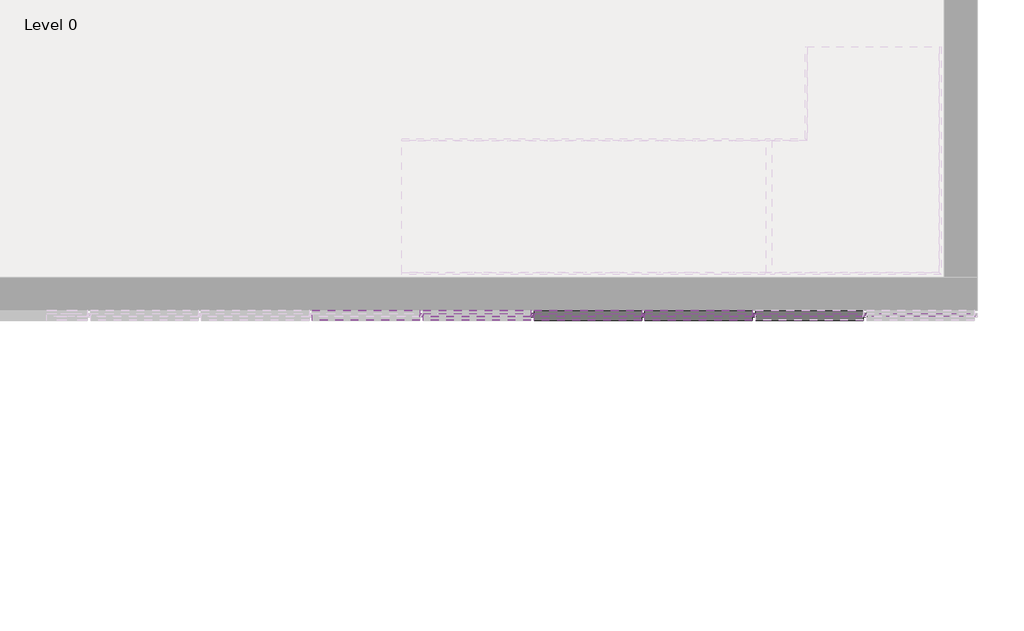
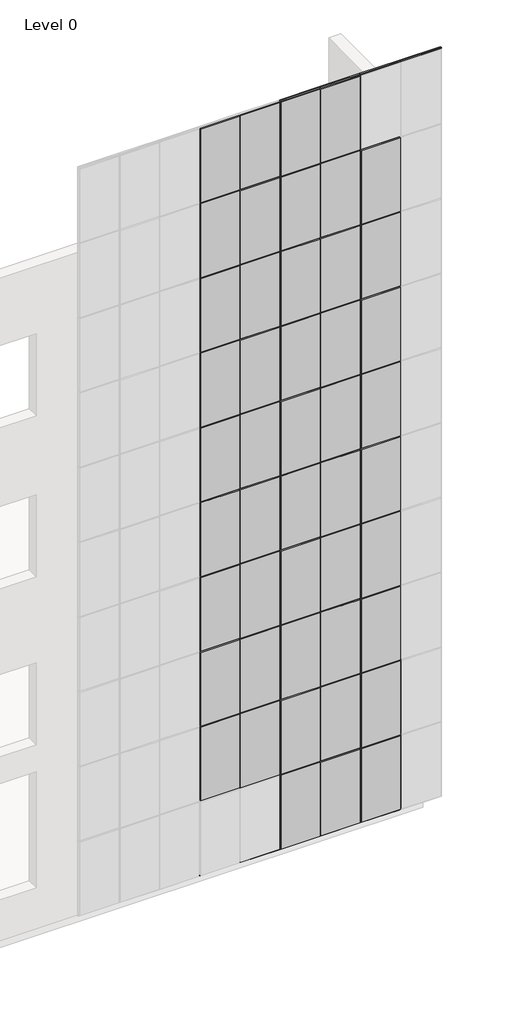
# One storey, part 4 of 10: 86 members, 47 plates.
"""IFC4 building model written with IfcOpenShell, lengths in millimetres."""

from ifc_helpers import new_model, si_unit, origin, place, context, project, spatial, transform, mapped, element, save
from components import rectangular_mullion_25x25mm_9b161682, rectangular_mullion_25x25mm_ababed0b, rectangular_mullion_25x25mm_8d901635, rectangular_mullion_25x25mm_4133c801, rectangular_mullion_25x25mm_ea16d22e, curtain_panels_solid_solid_panel_green_e5ea026e

model = new_model("IFC4")

# Units and contexts
model_context = context("Model", 3, world=origin())
ifc_project = project(units=[si_unit("LENGTHUNIT", "METRE", prefix="MILLI")], contexts=[model_context])

# Site, building, storey
site = spatial("IfcSite", under=ifc_project)
building = spatial("IfcBuilding", under=site)
storey = spatial("IfcBuildingStorey", under=building, Name="Level 0", Elevation=0.0)

# Members
placement = place(None, origin())
rectangular_mullion_25x25mm_shape = rectangular_mullion_25x25mm_9b161682(model_context)
element("IfcMember", 1, ObjectType="Rectangular Mullion : 25x25mm", at=placement, inside=storey, context=model_context, shape_type="MappedRepresentation", body=[
    mapped(rectangular_mullion_25x25mm_shape, transform((37964.4342366, -3560.0053409, 16500.0), x_axis=(0.0, 0.0, 1.0), y_axis=(0.0, 1.0, 0.0), z_axis=(-1.0, 0.0, 0.0))),
])
element("IfcMember", 2, ObjectType="Rectangular Mullion : 25x25mm", at=placement, inside=storey, context=model_context, shape_type="MappedRepresentation", body=[
    mapped(rectangular_mullion_25x25mm_shape, transform((37125.0042367, -3560.0053409, 16500.0), x_axis=(0.0, 0.0, 1.0), y_axis=(0.0, 1.0, 0.0), z_axis=(-1.0, 0.0, 0.0))),
])
element("IfcMember", 3, ObjectType="Rectangular Mullion : 25x25mm", at=placement, inside=storey, context=model_context, shape_type="MappedRepresentation", body=[
    mapped(rectangular_mullion_25x25mm_shape, transform((36285.5742368, -3560.0053409, 16500.0), x_axis=(0.0, 0.0, 1.0), y_axis=(0.0, 1.0, 0.0), z_axis=(-1.0, 0.0, 0.0))),
])
element("IfcMember", 4, ObjectType="Rectangular Mullion : 25x25mm", at=placement, inside=storey, context=model_context, shape_type="MappedRepresentation", body=[
    mapped(rectangular_mullion_25x25mm_shape, transform((38803.8642365, -3560.0053409, 0.0), x_axis=(0.0, 0.0, -1.0), y_axis=(0.0, 1.0, 0.0), z_axis=(1.0, 0.0, 0.0))),
])
element("IfcMember", 5, ObjectType="Rectangular Mullion : 25x25mm", at=placement, inside=storey, context=model_context, shape_type="MappedRepresentation", body=[
    mapped(rectangular_mullion_25x25mm_shape, transform((37964.4342366, -3560.0053409, 0.0), x_axis=(0.0, 0.0, -1.0), y_axis=(0.0, 1.0, 0.0), z_axis=(1.0, 0.0, 0.0))),
])
element("IfcMember", 6, ObjectType="Rectangular Mullion : 25x25mm", at=placement, inside=storey, context=model_context, shape_type="MappedRepresentation", body=[
    mapped(rectangular_mullion_25x25mm_shape, transform((37125.0042367, -3560.0053409, 0.0), x_axis=(0.0, 0.0, -1.0), y_axis=(0.0, 1.0, 0.0), z_axis=(1.0, 0.0, 0.0))),
])
element("IfcMember", 7, ObjectType="Rectangular Mullion : 25x25mm", at=placement, inside=storey, context=model_context, shape_type="MappedRepresentation", body=[
    mapped(rectangular_mullion_25x25mm_shape, transform((36285.5742368, -3560.0053409, 0.0), x_axis=(0.0, 0.0, -1.0), y_axis=(0.0, 1.0, 0.0), z_axis=(1.0, 0.0, 0.0))),
])
element("IfcMember", 8, ObjectType="Rectangular Mullion : 25x25mm", at=placement, inside=storey, context=model_context, shape_type="MappedRepresentation", body=[
    mapped(rectangular_mullion_25x25mm_shape, transform((35446.1442369, -3560.0053409, 0.0), x_axis=(0.0, 0.0, -1.0), y_axis=(0.0, 1.0, 0.0), z_axis=(1.0, 0.0, 0.0))),
])
rectangular_mullion_25x25mm_2_shape = rectangular_mullion_25x25mm_ababed0b(model_context)
element("IfcMember", 9, ObjectType="Rectangular Mullion : 25x25mm", at=placement, inside=storey, context=model_context, shape_type="MappedRepresentation", body=[
    mapped(rectangular_mullion_25x25mm_2_shape, transform((37976.9342366, -3560.0053409, 1660.0), x_axis=(0.0, 0.0, 1.0), y_axis=(0.0, 1.0, 0.0), z_axis=(-1.0, 0.0, 0.0))),
])
element("IfcMember", 10, ObjectType="Rectangular Mullion : 25x25mm", at=placement, inside=storey, context=model_context, shape_type="MappedRepresentation", body=[
    mapped(rectangular_mullion_25x25mm_2_shape, transform((37137.5042367, -3560.0053409, 1660.0), x_axis=(0.0, 0.0, 1.0), y_axis=(0.0, 1.0, 0.0), z_axis=(-1.0, 0.0, 0.0))),
])
element("IfcMember", 11, ObjectType="Rectangular Mullion : 25x25mm", at=placement, inside=storey, context=model_context, shape_type="MappedRepresentation", body=[
    mapped(rectangular_mullion_25x25mm_2_shape, transform((36298.0742368, -3560.0053409, 1660.0), x_axis=(0.0, 0.0, 1.0), y_axis=(0.0, 1.0, 0.0), z_axis=(-1.0, 0.0, 0.0))),
])
element("IfcMember", 12, ObjectType="Rectangular Mullion : 25x25mm", at=placement, inside=storey, context=model_context, shape_type="MappedRepresentation", body=[
    mapped(rectangular_mullion_25x25mm_2_shape, transform((35458.6442369, -3560.0053409, 1660.0), x_axis=(0.0, 0.0, 1.0), y_axis=(0.0, 1.0, 0.0), z_axis=(-1.0, 0.0, 0.0))),
])
element("IfcMember", 13, ObjectType="Rectangular Mullion : 25x25mm", at=placement, inside=storey, context=model_context, shape_type="MappedRepresentation", body=[
    mapped(rectangular_mullion_25x25mm_2_shape, transform((37976.9342366, -3560.0053409, 3307.5), x_axis=(0.0, 0.0, 1.0), y_axis=(0.0, 1.0, 0.0), z_axis=(-1.0, 0.0, 0.0))),
])
element("IfcMember", 14, ObjectType="Rectangular Mullion : 25x25mm", at=placement, inside=storey, context=model_context, shape_type="MappedRepresentation", body=[
    mapped(rectangular_mullion_25x25mm_2_shape, transform((37137.5042367, -3560.0053409, 3307.5), x_axis=(0.0, 0.0, 1.0), y_axis=(0.0, 1.0, 0.0), z_axis=(-1.0, 0.0, 0.0))),
])
element("IfcMember", 15, ObjectType="Rectangular Mullion : 25x25mm", at=placement, inside=storey, context=model_context, shape_type="MappedRepresentation", body=[
    mapped(rectangular_mullion_25x25mm_2_shape, transform((36298.0742368, -3560.0053409, 3307.5), x_axis=(0.0, 0.0, 1.0), y_axis=(0.0, 1.0, 0.0), z_axis=(-1.0, 0.0, 0.0))),
])
element("IfcMember", 16, ObjectType="Rectangular Mullion : 25x25mm", at=placement, inside=storey, context=model_context, shape_type="MappedRepresentation", body=[
    mapped(rectangular_mullion_25x25mm_2_shape, transform((35458.6442369, -3560.0053409, 3307.5), x_axis=(0.0, 0.0, 1.0), y_axis=(0.0, 1.0, 0.0), z_axis=(-1.0, 0.0, 0.0))),
])
element("IfcMember", 17, ObjectType="Rectangular Mullion : 25x25mm", at=placement, inside=storey, context=model_context, shape_type="MappedRepresentation", body=[
    mapped(rectangular_mullion_25x25mm_2_shape, transform((37976.9342366, -3560.0053409, 4955.0), x_axis=(0.0, 0.0, 1.0), y_axis=(0.0, 1.0, 0.0), z_axis=(-1.0, 0.0, 0.0))),
])
element("IfcMember", 18, ObjectType="Rectangular Mullion : 25x25mm", at=placement, inside=storey, context=model_context, shape_type="MappedRepresentation", body=[
    mapped(rectangular_mullion_25x25mm_2_shape, transform((37137.5042367, -3560.0053409, 4955.0), x_axis=(0.0, 0.0, 1.0), y_axis=(0.0, 1.0, 0.0), z_axis=(-1.0, 0.0, 0.0))),
])
element("IfcMember", 19, ObjectType="Rectangular Mullion : 25x25mm", at=placement, inside=storey, context=model_context, shape_type="MappedRepresentation", body=[
    mapped(rectangular_mullion_25x25mm_2_shape, transform((36298.0742368, -3560.0053409, 4955.0), x_axis=(0.0, 0.0, 1.0), y_axis=(0.0, 1.0, 0.0), z_axis=(-1.0, 0.0, 0.0))),
])
element("IfcMember", 20, ObjectType="Rectangular Mullion : 25x25mm", at=placement, inside=storey, context=model_context, shape_type="MappedRepresentation", body=[
    mapped(rectangular_mullion_25x25mm_2_shape, transform((35458.6442369, -3560.0053409, 4955.0), x_axis=(0.0, 0.0, 1.0), y_axis=(0.0, 1.0, 0.0), z_axis=(-1.0, 0.0, 0.0))),
])
element("IfcMember", 21, ObjectType="Rectangular Mullion : 25x25mm", at=placement, inside=storey, context=model_context, shape_type="MappedRepresentation", body=[
    mapped(rectangular_mullion_25x25mm_2_shape, transform((37976.9342366, -3560.0053409, 6602.5), x_axis=(0.0, 0.0, 1.0), y_axis=(0.0, 1.0, 0.0), z_axis=(-1.0, 0.0, 0.0))),
])
element("IfcMember", 22, ObjectType="Rectangular Mullion : 25x25mm", at=placement, inside=storey, context=model_context, shape_type="MappedRepresentation", body=[
    mapped(rectangular_mullion_25x25mm_2_shape, transform((37137.5042367, -3560.0053409, 6602.5), x_axis=(0.0, 0.0, 1.0), y_axis=(0.0, 1.0, 0.0), z_axis=(-1.0, 0.0, 0.0))),
])
element("IfcMember", 23, ObjectType="Rectangular Mullion : 25x25mm", at=placement, inside=storey, context=model_context, shape_type="MappedRepresentation", body=[
    mapped(rectangular_mullion_25x25mm_2_shape, transform((36298.0742368, -3560.0053409, 6602.5), x_axis=(0.0, 0.0, 1.0), y_axis=(0.0, 1.0, 0.0), z_axis=(-1.0, 0.0, 0.0))),
])
element("IfcMember", 24, ObjectType="Rectangular Mullion : 25x25mm", at=placement, inside=storey, context=model_context, shape_type="MappedRepresentation", body=[
    mapped(rectangular_mullion_25x25mm_2_shape, transform((35458.6442369, -3560.0053409, 6602.5), x_axis=(0.0, 0.0, 1.0), y_axis=(0.0, 1.0, 0.0), z_axis=(-1.0, 0.0, 0.0))),
])
element("IfcMember", 25, ObjectType="Rectangular Mullion : 25x25mm", at=placement, inside=storey, context=model_context, shape_type="MappedRepresentation", body=[
    mapped(rectangular_mullion_25x25mm_2_shape, transform((37976.9342366, -3560.0053409, 8250.0), x_axis=(0.0, 0.0, 1.0), y_axis=(0.0, 1.0, 0.0), z_axis=(-1.0, 0.0, 0.0))),
])
element("IfcMember", 26, ObjectType="Rectangular Mullion : 25x25mm", at=placement, inside=storey, context=model_context, shape_type="MappedRepresentation", body=[
    mapped(rectangular_mullion_25x25mm_2_shape, transform((37137.5042367, -3560.0053409, 8250.0), x_axis=(0.0, 0.0, 1.0), y_axis=(0.0, 1.0, 0.0), z_axis=(-1.0, 0.0, 0.0))),
])
element("IfcMember", 27, ObjectType="Rectangular Mullion : 25x25mm", at=placement, inside=storey, context=model_context, shape_type="MappedRepresentation", body=[
    mapped(rectangular_mullion_25x25mm_2_shape, transform((36298.0742368, -3560.0053409, 8250.0), x_axis=(0.0, 0.0, 1.0), y_axis=(0.0, 1.0, 0.0), z_axis=(-1.0, 0.0, 0.0))),
])
element("IfcMember", 28, ObjectType="Rectangular Mullion : 25x25mm", at=placement, inside=storey, context=model_context, shape_type="MappedRepresentation", body=[
    mapped(rectangular_mullion_25x25mm_2_shape, transform((35458.6442369, -3560.0053409, 8250.0), x_axis=(0.0, 0.0, 1.0), y_axis=(0.0, 1.0, 0.0), z_axis=(-1.0, 0.0, 0.0))),
])
element("IfcMember", 29, ObjectType="Rectangular Mullion : 25x25mm", at=placement, inside=storey, context=model_context, shape_type="MappedRepresentation", body=[
    mapped(rectangular_mullion_25x25mm_2_shape, transform((37976.9342366, -3560.0053409, 9897.5), x_axis=(0.0, 0.0, 1.0), y_axis=(0.0, 1.0, 0.0), z_axis=(-1.0, 0.0, 0.0))),
])
element("IfcMember", 30, ObjectType="Rectangular Mullion : 25x25mm", at=placement, inside=storey, context=model_context, shape_type="MappedRepresentation", body=[
    mapped(rectangular_mullion_25x25mm_2_shape, transform((37137.5042367, -3560.0053409, 9897.5), x_axis=(0.0, 0.0, 1.0), y_axis=(0.0, 1.0, 0.0), z_axis=(-1.0, 0.0, 0.0))),
])
element("IfcMember", 31, ObjectType="Rectangular Mullion : 25x25mm", at=placement, inside=storey, context=model_context, shape_type="MappedRepresentation", body=[
    mapped(rectangular_mullion_25x25mm_2_shape, transform((36298.0742368, -3560.0053409, 9897.5), x_axis=(0.0, 0.0, 1.0), y_axis=(0.0, 1.0, 0.0), z_axis=(-1.0, 0.0, 0.0))),
])
element("IfcMember", 32, ObjectType="Rectangular Mullion : 25x25mm", at=placement, inside=storey, context=model_context, shape_type="MappedRepresentation", body=[
    mapped(rectangular_mullion_25x25mm_2_shape, transform((35458.6442369, -3560.0053409, 9897.5), x_axis=(0.0, 0.0, 1.0), y_axis=(0.0, 1.0, 0.0), z_axis=(-1.0, 0.0, 0.0))),
])
element("IfcMember", 33, ObjectType="Rectangular Mullion : 25x25mm", at=placement, inside=storey, context=model_context, shape_type="MappedRepresentation", body=[
    mapped(rectangular_mullion_25x25mm_2_shape, transform((37976.9342366, -3560.0053409, 11545.0), x_axis=(0.0, 0.0, 1.0), y_axis=(0.0, 1.0, 0.0), z_axis=(-1.0, 0.0, 0.0))),
])
element("IfcMember", 34, ObjectType="Rectangular Mullion : 25x25mm", at=placement, inside=storey, context=model_context, shape_type="MappedRepresentation", body=[
    mapped(rectangular_mullion_25x25mm_2_shape, transform((37137.5042367, -3560.0053409, 11545.0), x_axis=(0.0, 0.0, 1.0), y_axis=(0.0, 1.0, 0.0), z_axis=(-1.0, 0.0, 0.0))),
])
element("IfcMember", 35, ObjectType="Rectangular Mullion : 25x25mm", at=placement, inside=storey, context=model_context, shape_type="MappedRepresentation", body=[
    mapped(rectangular_mullion_25x25mm_2_shape, transform((36298.0742368, -3560.0053409, 11545.0), x_axis=(0.0, 0.0, 1.0), y_axis=(0.0, 1.0, 0.0), z_axis=(-1.0, 0.0, 0.0))),
])
element("IfcMember", 36, ObjectType="Rectangular Mullion : 25x25mm", at=placement, inside=storey, context=model_context, shape_type="MappedRepresentation", body=[
    mapped(rectangular_mullion_25x25mm_2_shape, transform((35458.6442369, -3560.0053409, 11545.0), x_axis=(0.0, 0.0, 1.0), y_axis=(0.0, 1.0, 0.0), z_axis=(-1.0, 0.0, 0.0))),
])
element("IfcMember", 37, ObjectType="Rectangular Mullion : 25x25mm", at=placement, inside=storey, context=model_context, shape_type="MappedRepresentation", body=[
    mapped(rectangular_mullion_25x25mm_2_shape, transform((37976.9342366, -3560.0053409, 13192.5), x_axis=(0.0, 0.0, 1.0), y_axis=(0.0, 1.0, 0.0), z_axis=(-1.0, 0.0, 0.0))),
])
element("IfcMember", 38, ObjectType="Rectangular Mullion : 25x25mm", at=placement, inside=storey, context=model_context, shape_type="MappedRepresentation", body=[
    mapped(rectangular_mullion_25x25mm_2_shape, transform((37137.5042367, -3560.0053409, 13192.5), x_axis=(0.0, 0.0, 1.0), y_axis=(0.0, 1.0, 0.0), z_axis=(-1.0, 0.0, 0.0))),
])
element("IfcMember", 39, ObjectType="Rectangular Mullion : 25x25mm", at=placement, inside=storey, context=model_context, shape_type="MappedRepresentation", body=[
    mapped(rectangular_mullion_25x25mm_2_shape, transform((36298.0742368, -3560.0053409, 13192.5), x_axis=(0.0, 0.0, 1.0), y_axis=(0.0, 1.0, 0.0), z_axis=(-1.0, 0.0, 0.0))),
])
element("IfcMember", 40, ObjectType="Rectangular Mullion : 25x25mm", at=placement, inside=storey, context=model_context, shape_type="MappedRepresentation", body=[
    mapped(rectangular_mullion_25x25mm_2_shape, transform((35458.6442369, -3560.0053409, 13192.5), x_axis=(0.0, 0.0, 1.0), y_axis=(0.0, 1.0, 0.0), z_axis=(-1.0, 0.0, 0.0))),
])
element("IfcMember", 41, ObjectType="Rectangular Mullion : 25x25mm", at=placement, inside=storey, context=model_context, shape_type="MappedRepresentation", body=[
    mapped(rectangular_mullion_25x25mm_2_shape, transform((37976.9342366, -3560.0053409, 14840.0), x_axis=(0.0, 0.0, 1.0), y_axis=(0.0, 1.0, 0.0), z_axis=(-1.0, 0.0, 0.0))),
])
element("IfcMember", 42, ObjectType="Rectangular Mullion : 25x25mm", at=placement, inside=storey, context=model_context, shape_type="MappedRepresentation", body=[
    mapped(rectangular_mullion_25x25mm_2_shape, transform((37137.5042367, -3560.0053409, 14840.0), x_axis=(0.0, 0.0, 1.0), y_axis=(0.0, 1.0, 0.0), z_axis=(-1.0, 0.0, 0.0))),
])
element("IfcMember", 43, ObjectType="Rectangular Mullion : 25x25mm", at=placement, inside=storey, context=model_context, shape_type="MappedRepresentation", body=[
    mapped(rectangular_mullion_25x25mm_2_shape, transform((36298.0742368, -3560.0053409, 14840.0), x_axis=(0.0, 0.0, 1.0), y_axis=(0.0, 1.0, 0.0), z_axis=(-1.0, 0.0, 0.0))),
])
element("IfcMember", 44, ObjectType="Rectangular Mullion : 25x25mm", at=placement, inside=storey, context=model_context, shape_type="MappedRepresentation", body=[
    mapped(rectangular_mullion_25x25mm_2_shape, transform((35458.6442369, -3560.0053409, 14840.0), x_axis=(0.0, 0.0, 1.0), y_axis=(0.0, 1.0, 0.0), z_axis=(-1.0, 0.0, 0.0))),
])
rectangular_mullion_25x25mm_3_shape = rectangular_mullion_25x25mm_8d901635(model_context)
element("IfcMember", 45, ObjectType="Rectangular Mullion : 25x25mm", at=placement, inside=storey, context=model_context, shape_type="MappedRepresentation", body=[
    mapped(rectangular_mullion_25x25mm_3_shape, transform((38803.8642365, -3560.0053409, 25.0), x_axis=(-1.0, 0.0, 0.0), y_axis=(0.0, 1.0, 0.0), z_axis=(0.0, 0.0, -1.0))),
])
element("IfcMember", 46, ObjectType="Rectangular Mullion : 25x25mm", at=placement, inside=storey, context=model_context, shape_type="MappedRepresentation", body=[
    mapped(rectangular_mullion_25x25mm_3_shape, transform((37964.4342366, -3560.0053409, 25.0), x_axis=(-1.0, 0.0, 0.0), y_axis=(0.0, 1.0, 0.0), z_axis=(0.0, 0.0, -1.0))),
])
element("IfcMember", 47, ObjectType="Rectangular Mullion : 25x25mm", at=placement, inside=storey, context=model_context, shape_type="MappedRepresentation", body=[
    mapped(rectangular_mullion_25x25mm_3_shape, transform((37125.0042367, -3560.0053409, 25.0), x_axis=(-1.0, 0.0, 0.0), y_axis=(0.0, 1.0, 0.0), z_axis=(0.0, 0.0, -1.0))),
])
element("IfcMember", 48, ObjectType="Rectangular Mullion : 25x25mm", at=placement, inside=storey, context=model_context, shape_type="MappedRepresentation", body=[
    mapped(rectangular_mullion_25x25mm_3_shape, transform((36285.5742368, -3560.0053409, 25.0), x_axis=(-1.0, 0.0, 0.0), y_axis=(0.0, 1.0, 0.0), z_axis=(0.0, 0.0, -1.0))),
])
rectangular_mullion_25x25mm_4_shape = rectangular_mullion_25x25mm_4133c801(model_context)
element("IfcMember", 49, ObjectType="Rectangular Mullion : 25x25mm", at=placement, inside=storey, context=model_context, shape_type="MappedRepresentation", body=[
    mapped(rectangular_mullion_25x25mm_4_shape, transform((38803.8642365, -3560.0053409, 1660.0), x_axis=(-1.0, 0.0, 0.0), y_axis=(0.0, 1.0, 0.0), z_axis=(0.0, 0.0, -1.0))),
])
element("IfcMember", 50, ObjectType="Rectangular Mullion : 25x25mm", at=placement, inside=storey, context=model_context, shape_type="MappedRepresentation", body=[
    mapped(rectangular_mullion_25x25mm_4_shape, transform((37964.4342366, -3560.0053409, 1660.0), x_axis=(-1.0, 0.0, 0.0), y_axis=(0.0, 1.0, 0.0), z_axis=(0.0, 0.0, -1.0))),
])
element("IfcMember", 51, ObjectType="Rectangular Mullion : 25x25mm", at=placement, inside=storey, context=model_context, shape_type="MappedRepresentation", body=[
    mapped(rectangular_mullion_25x25mm_4_shape, transform((37964.4342366, -3560.0053409, 3307.5), x_axis=(-1.0, 0.0, 0.0), y_axis=(0.0, 1.0, 0.0), z_axis=(0.0, 0.0, -1.0))),
])
element("IfcMember", 52, ObjectType="Rectangular Mullion : 25x25mm", at=placement, inside=storey, context=model_context, shape_type="MappedRepresentation", body=[
    mapped(rectangular_mullion_25x25mm_4_shape, transform((37964.4342366, -3560.0053409, 4955.0), x_axis=(-1.0, 0.0, 0.0), y_axis=(0.0, 1.0, 0.0), z_axis=(0.0, 0.0, -1.0))),
])
element("IfcMember", 53, ObjectType="Rectangular Mullion : 25x25mm", at=placement, inside=storey, context=model_context, shape_type="MappedRepresentation", body=[
    mapped(rectangular_mullion_25x25mm_4_shape, transform((37964.4342366, -3560.0053409, 6602.5), x_axis=(-1.0, 0.0, 0.0), y_axis=(0.0, 1.0, 0.0), z_axis=(0.0, 0.0, -1.0))),
])
element("IfcMember", 54, ObjectType="Rectangular Mullion : 25x25mm", at=placement, inside=storey, context=model_context, shape_type="MappedRepresentation", body=[
    mapped(rectangular_mullion_25x25mm_4_shape, transform((37964.4342366, -3560.0053409, 8250.0), x_axis=(-1.0, 0.0, 0.0), y_axis=(0.0, 1.0, 0.0), z_axis=(0.0, 0.0, -1.0))),
])
element("IfcMember", 55, ObjectType="Rectangular Mullion : 25x25mm", at=placement, inside=storey, context=model_context, shape_type="MappedRepresentation", body=[
    mapped(rectangular_mullion_25x25mm_4_shape, transform((37964.4342366, -3560.0053409, 9897.5), x_axis=(-1.0, 0.0, 0.0), y_axis=(0.0, 1.0, 0.0), z_axis=(0.0, 0.0, -1.0))),
])
element("IfcMember", 56, ObjectType="Rectangular Mullion : 25x25mm", at=placement, inside=storey, context=model_context, shape_type="MappedRepresentation", body=[
    mapped(rectangular_mullion_25x25mm_4_shape, transform((37964.4342366, -3560.0053409, 11545.0), x_axis=(-1.0, 0.0, 0.0), y_axis=(0.0, 1.0, 0.0), z_axis=(0.0, 0.0, -1.0))),
])
element("IfcMember", 57, ObjectType="Rectangular Mullion : 25x25mm", at=placement, inside=storey, context=model_context, shape_type="MappedRepresentation", body=[
    mapped(rectangular_mullion_25x25mm_4_shape, transform((37964.4342366, -3560.0053409, 13192.5), x_axis=(-1.0, 0.0, 0.0), y_axis=(0.0, 1.0, 0.0), z_axis=(0.0, 0.0, -1.0))),
])
element("IfcMember", 58, ObjectType="Rectangular Mullion : 25x25mm", at=placement, inside=storey, context=model_context, shape_type="MappedRepresentation", body=[
    mapped(rectangular_mullion_25x25mm_4_shape, transform((37125.0042367, -3560.0053409, 1660.0), x_axis=(-1.0, 0.0, 0.0), y_axis=(0.0, 1.0, 0.0), z_axis=(0.0, 0.0, -1.0))),
])
element("IfcMember", 59, ObjectType="Rectangular Mullion : 25x25mm", at=placement, inside=storey, context=model_context, shape_type="MappedRepresentation", body=[
    mapped(rectangular_mullion_25x25mm_4_shape, transform((37125.0042367, -3560.0053409, 3307.5), x_axis=(-1.0, 0.0, 0.0), y_axis=(0.0, 1.0, 0.0), z_axis=(0.0, 0.0, -1.0))),
])
element("IfcMember", 60, ObjectType="Rectangular Mullion : 25x25mm", at=placement, inside=storey, context=model_context, shape_type="MappedRepresentation", body=[
    mapped(rectangular_mullion_25x25mm_4_shape, transform((37125.0042367, -3560.0053409, 4955.0), x_axis=(-1.0, 0.0, 0.0), y_axis=(0.0, 1.0, 0.0), z_axis=(0.0, 0.0, -1.0))),
])
element("IfcMember", 61, ObjectType="Rectangular Mullion : 25x25mm", at=placement, inside=storey, context=model_context, shape_type="MappedRepresentation", body=[
    mapped(rectangular_mullion_25x25mm_4_shape, transform((37125.0042367, -3560.0053409, 6602.5), x_axis=(-1.0, 0.0, 0.0), y_axis=(0.0, 1.0, 0.0), z_axis=(0.0, 0.0, -1.0))),
])
element("IfcMember", 62, ObjectType="Rectangular Mullion : 25x25mm", at=placement, inside=storey, context=model_context, shape_type="MappedRepresentation", body=[
    mapped(rectangular_mullion_25x25mm_4_shape, transform((37125.0042367, -3560.0053409, 8250.0), x_axis=(-1.0, 0.0, 0.0), y_axis=(0.0, 1.0, 0.0), z_axis=(0.0, 0.0, -1.0))),
])
element("IfcMember", 63, ObjectType="Rectangular Mullion : 25x25mm", at=placement, inside=storey, context=model_context, shape_type="MappedRepresentation", body=[
    mapped(rectangular_mullion_25x25mm_4_shape, transform((37125.0042367, -3560.0053409, 9897.5), x_axis=(-1.0, 0.0, 0.0), y_axis=(0.0, 1.0, 0.0), z_axis=(0.0, 0.0, -1.0))),
])
element("IfcMember", 64, ObjectType="Rectangular Mullion : 25x25mm", at=placement, inside=storey, context=model_context, shape_type="MappedRepresentation", body=[
    mapped(rectangular_mullion_25x25mm_4_shape, transform((37125.0042367, -3560.0053409, 11545.0), x_axis=(-1.0, 0.0, 0.0), y_axis=(0.0, 1.0, 0.0), z_axis=(0.0, 0.0, -1.0))),
])
element("IfcMember", 65, ObjectType="Rectangular Mullion : 25x25mm", at=placement, inside=storey, context=model_context, shape_type="MappedRepresentation", body=[
    mapped(rectangular_mullion_25x25mm_4_shape, transform((37125.0042367, -3560.0053409, 13192.5), x_axis=(-1.0, 0.0, 0.0), y_axis=(0.0, 1.0, 0.0), z_axis=(0.0, 0.0, -1.0))),
])
element("IfcMember", 66, ObjectType="Rectangular Mullion : 25x25mm", at=placement, inside=storey, context=model_context, shape_type="MappedRepresentation", body=[
    mapped(rectangular_mullion_25x25mm_4_shape, transform((36285.5742368, -3560.0053409, 1660.0), x_axis=(-1.0, 0.0, 0.0), y_axis=(0.0, 1.0, 0.0), z_axis=(0.0, 0.0, -1.0))),
])
element("IfcMember", 67, ObjectType="Rectangular Mullion : 25x25mm", at=placement, inside=storey, context=model_context, shape_type="MappedRepresentation", body=[
    mapped(rectangular_mullion_25x25mm_4_shape, transform((36285.5742368, -3560.0053409, 3307.5), x_axis=(-1.0, 0.0, 0.0), y_axis=(0.0, 1.0, 0.0), z_axis=(0.0, 0.0, -1.0))),
])
element("IfcMember", 68, ObjectType="Rectangular Mullion : 25x25mm", at=placement, inside=storey, context=model_context, shape_type="MappedRepresentation", body=[
    mapped(rectangular_mullion_25x25mm_4_shape, transform((36285.5742368, -3560.0053409, 4955.0), x_axis=(-1.0, 0.0, 0.0), y_axis=(0.0, 1.0, 0.0), z_axis=(0.0, 0.0, -1.0))),
])
element("IfcMember", 69, ObjectType="Rectangular Mullion : 25x25mm", at=placement, inside=storey, context=model_context, shape_type="MappedRepresentation", body=[
    mapped(rectangular_mullion_25x25mm_4_shape, transform((36285.5742368, -3560.0053409, 6602.5), x_axis=(-1.0, 0.0, 0.0), y_axis=(0.0, 1.0, 0.0), z_axis=(0.0, 0.0, -1.0))),
])
element("IfcMember", 70, ObjectType="Rectangular Mullion : 25x25mm", at=placement, inside=storey, context=model_context, shape_type="MappedRepresentation", body=[
    mapped(rectangular_mullion_25x25mm_4_shape, transform((36285.5742368, -3560.0053409, 8250.0), x_axis=(-1.0, 0.0, 0.0), y_axis=(0.0, 1.0, 0.0), z_axis=(0.0, 0.0, -1.0))),
])
element("IfcMember", 71, ObjectType="Rectangular Mullion : 25x25mm", at=placement, inside=storey, context=model_context, shape_type="MappedRepresentation", body=[
    mapped(rectangular_mullion_25x25mm_4_shape, transform((36285.5742368, -3560.0053409, 9897.5), x_axis=(-1.0, 0.0, 0.0), y_axis=(0.0, 1.0, 0.0), z_axis=(0.0, 0.0, -1.0))),
])
element("IfcMember", 72, ObjectType="Rectangular Mullion : 25x25mm", at=placement, inside=storey, context=model_context, shape_type="MappedRepresentation", body=[
    mapped(rectangular_mullion_25x25mm_4_shape, transform((36285.5742368, -3560.0053409, 11545.0), x_axis=(-1.0, 0.0, 0.0), y_axis=(0.0, 1.0, 0.0), z_axis=(0.0, 0.0, -1.0))),
])
element("IfcMember", 73, ObjectType="Rectangular Mullion : 25x25mm", at=placement, inside=storey, context=model_context, shape_type="MappedRepresentation", body=[
    mapped(rectangular_mullion_25x25mm_4_shape, transform((36285.5742368, -3560.0053409, 13192.5), x_axis=(-1.0, 0.0, 0.0), y_axis=(0.0, 1.0, 0.0), z_axis=(0.0, 0.0, -1.0))),
])
element("IfcMember", 74, ObjectType="Rectangular Mullion : 25x25mm", at=placement, inside=storey, context=model_context, shape_type="MappedRepresentation", body=[
    mapped(rectangular_mullion_25x25mm_4_shape, transform((35446.1442369, -3560.0053409, 1660.0), x_axis=(-1.0, 0.0, 0.0), y_axis=(0.0, 1.0, 0.0), z_axis=(0.0, 0.0, -1.0))),
])
element("IfcMember", 75, ObjectType="Rectangular Mullion : 25x25mm", at=placement, inside=storey, context=model_context, shape_type="MappedRepresentation", body=[
    mapped(rectangular_mullion_25x25mm_4_shape, transform((35446.1442369, -3560.0053409, 3307.5), x_axis=(-1.0, 0.0, 0.0), y_axis=(0.0, 1.0, 0.0), z_axis=(0.0, 0.0, -1.0))),
])
element("IfcMember", 76, ObjectType="Rectangular Mullion : 25x25mm", at=placement, inside=storey, context=model_context, shape_type="MappedRepresentation", body=[
    mapped(rectangular_mullion_25x25mm_4_shape, transform((35446.1442369, -3560.0053409, 4955.0), x_axis=(-1.0, 0.0, 0.0), y_axis=(0.0, 1.0, 0.0), z_axis=(0.0, 0.0, -1.0))),
])
element("IfcMember", 77, ObjectType="Rectangular Mullion : 25x25mm", at=placement, inside=storey, context=model_context, shape_type="MappedRepresentation", body=[
    mapped(rectangular_mullion_25x25mm_4_shape, transform((35446.1442369, -3560.0053409, 6602.5), x_axis=(-1.0, 0.0, 0.0), y_axis=(0.0, 1.0, 0.0), z_axis=(0.0, 0.0, -1.0))),
])
element("IfcMember", 78, ObjectType="Rectangular Mullion : 25x25mm", at=placement, inside=storey, context=model_context, shape_type="MappedRepresentation", body=[
    mapped(rectangular_mullion_25x25mm_4_shape, transform((35446.1442369, -3560.0053409, 8250.0), x_axis=(-1.0, 0.0, 0.0), y_axis=(0.0, 1.0, 0.0), z_axis=(0.0, 0.0, -1.0))),
])
element("IfcMember", 79, ObjectType="Rectangular Mullion : 25x25mm", at=placement, inside=storey, context=model_context, shape_type="MappedRepresentation", body=[
    mapped(rectangular_mullion_25x25mm_4_shape, transform((35446.1442369, -3560.0053409, 9897.5), x_axis=(-1.0, 0.0, 0.0), y_axis=(0.0, 1.0, 0.0), z_axis=(0.0, 0.0, -1.0))),
])
element("IfcMember", 80, ObjectType="Rectangular Mullion : 25x25mm", at=placement, inside=storey, context=model_context, shape_type="MappedRepresentation", body=[
    mapped(rectangular_mullion_25x25mm_4_shape, transform((35446.1442369, -3560.0053409, 11545.0), x_axis=(-1.0, 0.0, 0.0), y_axis=(0.0, 1.0, 0.0), z_axis=(0.0, 0.0, -1.0))),
])
element("IfcMember", 81, ObjectType="Rectangular Mullion : 25x25mm", at=placement, inside=storey, context=model_context, shape_type="MappedRepresentation", body=[
    mapped(rectangular_mullion_25x25mm_4_shape, transform((35446.1442369, -3560.0053409, 13192.5), x_axis=(-1.0, 0.0, 0.0), y_axis=(0.0, 1.0, 0.0), z_axis=(0.0, 0.0, -1.0))),
])
rectangular_mullion_25x25mm_5_shape = rectangular_mullion_25x25mm_ea16d22e(model_context)
element("IfcMember", 82, ObjectType="Rectangular Mullion : 25x25mm", at=placement, inside=storey, context=model_context, shape_type="MappedRepresentation", body=[
    mapped(rectangular_mullion_25x25mm_5_shape, transform((38803.8642365, -3560.0053409, 16500.0), x_axis=(0.0, 0.0, 1.0), y_axis=(0.0, 1.0, 0.0), z_axis=(-1.0, 0.0, 0.0))),
])
element("IfcMember", 83, ObjectType="Rectangular Mullion : 25x25mm", at=placement, inside=storey, context=model_context, shape_type="MappedRepresentation", body=[
    mapped(rectangular_mullion_25x25mm_3_shape, transform((37964.4342366, -3560.0053409, 14840.0), x_axis=(-1.0, 0.0, 0.0), y_axis=(0.0, 1.0, 0.0), z_axis=(0.0, 0.0, -1.0))),
])
element("IfcMember", 84, ObjectType="Rectangular Mullion : 25x25mm", at=placement, inside=storey, context=model_context, shape_type="MappedRepresentation", body=[
    mapped(rectangular_mullion_25x25mm_3_shape, transform((37125.0042367, -3560.0053409, 14840.0), x_axis=(-1.0, 0.0, 0.0), y_axis=(0.0, 1.0, 0.0), z_axis=(0.0, 0.0, -1.0))),
])
element("IfcMember", 85, ObjectType="Rectangular Mullion : 25x25mm", at=placement, inside=storey, context=model_context, shape_type="MappedRepresentation", body=[
    mapped(rectangular_mullion_25x25mm_3_shape, transform((36285.5742368, -3560.0053409, 14840.0), x_axis=(-1.0, 0.0, 0.0), y_axis=(0.0, 1.0, 0.0), z_axis=(0.0, 0.0, -1.0))),
])
element("IfcMember", 86, ObjectType="Rectangular Mullion : 25x25mm", at=placement, inside=storey, context=model_context, shape_type="MappedRepresentation", body=[
    mapped(rectangular_mullion_25x25mm_3_shape, transform((35446.1442369, -3560.0053409, 14840.0), x_axis=(-1.0, 0.0, 0.0), y_axis=(0.0, 1.0, 0.0), z_axis=(0.0, 0.0, -1.0))),
])

# Plates
curtain_panels_solid_solid_panel_green_shape = curtain_panels_solid_solid_panel_green_e5ea026e(model_context)
element("IfcPlate", 87, ObjectType="Curtain_Panels_Solid : Solid_Panel_Green", at=placement, inside=storey, context=model_context, shape_type="MappedRepresentation", body=[
    mapped(curtain_panels_solid_solid_panel_green_shape, transform((38384.1492365, -3560.0053409, 25.0), x_axis=(-1.0, 0.0, 0.0), y_axis=(0.0, -1.0, 0.0), z_axis=(0.0, 0.0, 1.0))),
])
element("IfcPlate", 88, ObjectType="Curtain_Panels_Solid : Solid_Panel_Green", at=placement, inside=storey, context=model_context, shape_type="MappedRepresentation", body=[
    mapped(curtain_panels_solid_solid_panel_green_shape, transform((37544.7192366, -3560.0053409, 25.0), x_axis=(-1.0, 0.0, 0.0), y_axis=(0.0, -1.0, 0.0), z_axis=(0.0, 0.0, 1.0))),
])
element("IfcPlate", 89, ObjectType="Curtain_Panels_Solid : Solid_Panel_Green", at=placement, inside=storey, context=model_context, shape_type="MappedRepresentation", body=[
    mapped(curtain_panels_solid_solid_panel_green_shape, transform((36705.2892367, -3560.0053409, 25.0), x_axis=(-1.0, 0.0, 0.0), y_axis=(0.0, -1.0, 0.0), z_axis=(0.0, 0.0, 1.0))),
])
element("IfcPlate", 90, ObjectType="Curtain_Panels_Solid : Solid_Panel_Green", at=placement, inside=storey, context=model_context, shape_type="MappedRepresentation", body=[
    mapped(curtain_panels_solid_solid_panel_green_shape, transform((38384.1492365, -3560.0053409, 1672.5), x_axis=(-1.0, 0.0, 0.0), y_axis=(0.0, -1.0, 0.0), z_axis=(0.0, 0.0, 1.0))),
])
element("IfcPlate", 91, ObjectType="Curtain_Panels_Solid : Solid_Panel_Green", at=placement, inside=storey, context=model_context, shape_type="MappedRepresentation", body=[
    mapped(curtain_panels_solid_solid_panel_green_shape, transform((37544.7192366, -3560.0053409, 1672.5), x_axis=(-1.0, 0.0, 0.0), y_axis=(0.0, -1.0, 0.0), z_axis=(0.0, 0.0, 1.0))),
])
element("IfcPlate", 92, ObjectType="Curtain_Panels_Solid : Solid_Panel_Green", at=placement, inside=storey, context=model_context, shape_type="MappedRepresentation", body=[
    mapped(curtain_panels_solid_solid_panel_green_shape, transform((36705.2892367, -3560.0053409, 1672.5), x_axis=(-1.0, 0.0, 0.0), y_axis=(0.0, -1.0, 0.0), z_axis=(0.0, 0.0, 1.0))),
])
element("IfcPlate", 93, ObjectType="Curtain_Panels_Solid : Solid_Panel_Green", at=placement, inside=storey, context=model_context, shape_type="MappedRepresentation", body=[
    mapped(curtain_panels_solid_solid_panel_green_shape, transform((35865.8592368, -3560.0053409, 1672.5), x_axis=(-1.0, 0.0, 0.0), y_axis=(0.0, -1.0, 0.0), z_axis=(0.0, 0.0, 1.0))),
])
element("IfcPlate", 94, ObjectType="Curtain_Panels_Solid : Solid_Panel_Green", at=placement, inside=storey, context=model_context, shape_type="MappedRepresentation", body=[
    mapped(curtain_panels_solid_solid_panel_green_shape, transform((35026.4292369, -3560.0053409, 1672.5), x_axis=(-1.0, 0.0, 0.0), y_axis=(0.0, -1.0, 0.0), z_axis=(0.0, 0.0, 1.0))),
])
element("IfcPlate", 95, ObjectType="Curtain_Panels_Solid : Solid_Panel_Green", at=placement, inside=storey, context=model_context, shape_type="MappedRepresentation", body=[
    mapped(curtain_panels_solid_solid_panel_green_shape, transform((38384.1492365, -3560.0053409, 3320.0), x_axis=(-1.0, 0.0, 0.0), y_axis=(0.0, -1.0, 0.0), z_axis=(0.0, 0.0, 1.0))),
])
element("IfcPlate", 96, ObjectType="Curtain_Panels_Solid : Solid_Panel_Green", at=placement, inside=storey, context=model_context, shape_type="MappedRepresentation", body=[
    mapped(curtain_panels_solid_solid_panel_green_shape, transform((37544.7192366, -3560.0053409, 3320.0), x_axis=(-1.0, 0.0, 0.0), y_axis=(0.0, -1.0, 0.0), z_axis=(0.0, 0.0, 1.0))),
])
element("IfcPlate", 97, ObjectType="Curtain_Panels_Solid : Solid_Panel_Green", at=placement, inside=storey, context=model_context, shape_type="MappedRepresentation", body=[
    mapped(curtain_panels_solid_solid_panel_green_shape, transform((36705.2892367, -3560.0053409, 3320.0), x_axis=(-1.0, 0.0, 0.0), y_axis=(0.0, -1.0, 0.0), z_axis=(0.0, 0.0, 1.0))),
])
element("IfcPlate", 98, ObjectType="Curtain_Panels_Solid : Solid_Panel_Green", at=placement, inside=storey, context=model_context, shape_type="MappedRepresentation", body=[
    mapped(curtain_panels_solid_solid_panel_green_shape, transform((35865.8592368, -3560.0053409, 3320.0), x_axis=(-1.0, 0.0, 0.0), y_axis=(0.0, -1.0, 0.0), z_axis=(0.0, 0.0, 1.0))),
])
element("IfcPlate", 99, ObjectType="Curtain_Panels_Solid : Solid_Panel_Green", at=placement, inside=storey, context=model_context, shape_type="MappedRepresentation", body=[
    mapped(curtain_panels_solid_solid_panel_green_shape, transform((35026.4292369, -3560.0053409, 3320.0), x_axis=(-1.0, 0.0, 0.0), y_axis=(0.0, -1.0, 0.0), z_axis=(0.0, 0.0, 1.0))),
])
element("IfcPlate", 100, ObjectType="Curtain_Panels_Solid : Solid_Panel_Green", at=placement, inside=storey, context=model_context, shape_type="MappedRepresentation", body=[
    mapped(curtain_panels_solid_solid_panel_green_shape, transform((38384.1492365, -3560.0053409, 4967.5), x_axis=(-1.0, 0.0, 0.0), y_axis=(0.0, -1.0, 0.0), z_axis=(0.0, 0.0, 1.0))),
])
element("IfcPlate", 101, ObjectType="Curtain_Panels_Solid : Solid_Panel_Green", at=placement, inside=storey, context=model_context, shape_type="MappedRepresentation", body=[
    mapped(curtain_panels_solid_solid_panel_green_shape, transform((37544.7192366, -3560.0053409, 4967.5), x_axis=(-1.0, 0.0, 0.0), y_axis=(0.0, -1.0, 0.0), z_axis=(0.0, 0.0, 1.0))),
])
element("IfcPlate", 102, ObjectType="Curtain_Panels_Solid : Solid_Panel_Green", at=placement, inside=storey, context=model_context, shape_type="MappedRepresentation", body=[
    mapped(curtain_panels_solid_solid_panel_green_shape, transform((36705.2892367, -3560.0053409, 4967.5), x_axis=(-1.0, 0.0, 0.0), y_axis=(0.0, -1.0, 0.0), z_axis=(0.0, 0.0, 1.0))),
])
element("IfcPlate", 103, ObjectType="Curtain_Panels_Solid : Solid_Panel_Green", at=placement, inside=storey, context=model_context, shape_type="MappedRepresentation", body=[
    mapped(curtain_panels_solid_solid_panel_green_shape, transform((35865.8592368, -3560.0053409, 4967.5), x_axis=(-1.0, 0.0, 0.0), y_axis=(0.0, -1.0, 0.0), z_axis=(0.0, 0.0, 1.0))),
])
element("IfcPlate", 104, ObjectType="Curtain_Panels_Solid : Solid_Panel_Green", at=placement, inside=storey, context=model_context, shape_type="MappedRepresentation", body=[
    mapped(curtain_panels_solid_solid_panel_green_shape, transform((35026.4292369, -3560.0053409, 4967.5), x_axis=(-1.0, 0.0, 0.0), y_axis=(0.0, -1.0, 0.0), z_axis=(0.0, 0.0, 1.0))),
])
element("IfcPlate", 105, ObjectType="Curtain_Panels_Solid : Solid_Panel_Green", at=placement, inside=storey, context=model_context, shape_type="MappedRepresentation", body=[
    mapped(curtain_panels_solid_solid_panel_green_shape, transform((38384.1492365, -3560.0053409, 6615.0), x_axis=(-1.0, 0.0, 0.0), y_axis=(0.0, -1.0, 0.0), z_axis=(0.0, 0.0, 1.0))),
])
element("IfcPlate", 106, ObjectType="Curtain_Panels_Solid : Solid_Panel_Green", at=placement, inside=storey, context=model_context, shape_type="MappedRepresentation", body=[
    mapped(curtain_panels_solid_solid_panel_green_shape, transform((37544.7192366, -3560.0053409, 6615.0), x_axis=(-1.0, 0.0, 0.0), y_axis=(0.0, -1.0, 0.0), z_axis=(0.0, 0.0, 1.0))),
])
element("IfcPlate", 107, ObjectType="Curtain_Panels_Solid : Solid_Panel_Green", at=placement, inside=storey, context=model_context, shape_type="MappedRepresentation", body=[
    mapped(curtain_panels_solid_solid_panel_green_shape, transform((36705.2892367, -3560.0053409, 6615.0), x_axis=(-1.0, 0.0, 0.0), y_axis=(0.0, -1.0, 0.0), z_axis=(0.0, 0.0, 1.0))),
])
element("IfcPlate", 108, ObjectType="Curtain_Panels_Solid : Solid_Panel_Green", at=placement, inside=storey, context=model_context, shape_type="MappedRepresentation", body=[
    mapped(curtain_panels_solid_solid_panel_green_shape, transform((35865.8592368, -3560.0053409, 6615.0), x_axis=(-1.0, 0.0, 0.0), y_axis=(0.0, -1.0, 0.0), z_axis=(0.0, 0.0, 1.0))),
])
element("IfcPlate", 109, ObjectType="Curtain_Panels_Solid : Solid_Panel_Green", at=placement, inside=storey, context=model_context, shape_type="MappedRepresentation", body=[
    mapped(curtain_panels_solid_solid_panel_green_shape, transform((35026.4292369, -3560.0053409, 6615.0), x_axis=(-1.0, 0.0, 0.0), y_axis=(0.0, -1.0, 0.0), z_axis=(0.0, 0.0, 1.0))),
])
element("IfcPlate", 110, ObjectType="Curtain_Panels_Solid : Solid_Panel_Green", at=placement, inside=storey, context=model_context, shape_type="MappedRepresentation", body=[
    mapped(curtain_panels_solid_solid_panel_green_shape, transform((38384.1492365, -3560.0053409, 8262.5), x_axis=(-1.0, 0.0, 0.0), y_axis=(0.0, -1.0, 0.0), z_axis=(0.0, 0.0, 1.0))),
])
element("IfcPlate", 111, ObjectType="Curtain_Panels_Solid : Solid_Panel_Green", at=placement, inside=storey, context=model_context, shape_type="MappedRepresentation", body=[
    mapped(curtain_panels_solid_solid_panel_green_shape, transform((37544.7192366, -3560.0053409, 8262.5), x_axis=(-1.0, 0.0, 0.0), y_axis=(0.0, -1.0, 0.0), z_axis=(0.0, 0.0, 1.0))),
])
element("IfcPlate", 112, ObjectType="Curtain_Panels_Solid : Solid_Panel_Green", at=placement, inside=storey, context=model_context, shape_type="MappedRepresentation", body=[
    mapped(curtain_panels_solid_solid_panel_green_shape, transform((36705.2892367, -3560.0053409, 8262.5), x_axis=(-1.0, 0.0, 0.0), y_axis=(0.0, -1.0, 0.0), z_axis=(0.0, 0.0, 1.0))),
])
element("IfcPlate", 113, ObjectType="Curtain_Panels_Solid : Solid_Panel_Green", at=placement, inside=storey, context=model_context, shape_type="MappedRepresentation", body=[
    mapped(curtain_panels_solid_solid_panel_green_shape, transform((35865.8592368, -3560.0053409, 8262.5), x_axis=(-1.0, 0.0, 0.0), y_axis=(0.0, -1.0, 0.0), z_axis=(0.0, 0.0, 1.0))),
])
element("IfcPlate", 114, ObjectType="Curtain_Panels_Solid : Solid_Panel_Green", at=placement, inside=storey, context=model_context, shape_type="MappedRepresentation", body=[
    mapped(curtain_panels_solid_solid_panel_green_shape, transform((35026.4292369, -3560.0053409, 8262.5), x_axis=(-1.0, 0.0, 0.0), y_axis=(0.0, -1.0, 0.0), z_axis=(0.0, 0.0, 1.0))),
])
element("IfcPlate", 115, ObjectType="Curtain_Panels_Solid : Solid_Panel_Green", at=placement, inside=storey, context=model_context, shape_type="MappedRepresentation", body=[
    mapped(curtain_panels_solid_solid_panel_green_shape, transform((38384.1492365, -3560.0053409, 9910.0), x_axis=(-1.0, 0.0, 0.0), y_axis=(0.0, -1.0, 0.0), z_axis=(0.0, 0.0, 1.0))),
])
element("IfcPlate", 116, ObjectType="Curtain_Panels_Solid : Solid_Panel_Green", at=placement, inside=storey, context=model_context, shape_type="MappedRepresentation", body=[
    mapped(curtain_panels_solid_solid_panel_green_shape, transform((37544.7192366, -3560.0053409, 9910.0), x_axis=(-1.0, 0.0, 0.0), y_axis=(0.0, -1.0, 0.0), z_axis=(0.0, 0.0, 1.0))),
])
element("IfcPlate", 117, ObjectType="Curtain_Panels_Solid : Solid_Panel_Green", at=placement, inside=storey, context=model_context, shape_type="MappedRepresentation", body=[
    mapped(curtain_panels_solid_solid_panel_green_shape, transform((36705.2892367, -3560.0053409, 9910.0), x_axis=(-1.0, 0.0, 0.0), y_axis=(0.0, -1.0, 0.0), z_axis=(0.0, 0.0, 1.0))),
])
element("IfcPlate", 118, ObjectType="Curtain_Panels_Solid : Solid_Panel_Green", at=placement, inside=storey, context=model_context, shape_type="MappedRepresentation", body=[
    mapped(curtain_panels_solid_solid_panel_green_shape, transform((35865.8592368, -3560.0053409, 9910.0), x_axis=(-1.0, 0.0, 0.0), y_axis=(0.0, -1.0, 0.0), z_axis=(0.0, 0.0, 1.0))),
])
element("IfcPlate", 119, ObjectType="Curtain_Panels_Solid : Solid_Panel_Green", at=placement, inside=storey, context=model_context, shape_type="MappedRepresentation", body=[
    mapped(curtain_panels_solid_solid_panel_green_shape, transform((35026.4292369, -3560.0053409, 9910.0), x_axis=(-1.0, 0.0, 0.0), y_axis=(0.0, -1.0, 0.0), z_axis=(0.0, 0.0, 1.0))),
])
element("IfcPlate", 120, ObjectType="Curtain_Panels_Solid : Solid_Panel_Green", at=placement, inside=storey, context=model_context, shape_type="MappedRepresentation", body=[
    mapped(curtain_panels_solid_solid_panel_green_shape, transform((38384.1492365, -3560.0053409, 11557.5), x_axis=(-1.0, 0.0, 0.0), y_axis=(0.0, -1.0, 0.0), z_axis=(0.0, 0.0, 1.0))),
])
element("IfcPlate", 121, ObjectType="Curtain_Panels_Solid : Solid_Panel_Green", at=placement, inside=storey, context=model_context, shape_type="MappedRepresentation", body=[
    mapped(curtain_panels_solid_solid_panel_green_shape, transform((37544.7192366, -3560.0053409, 11557.5), x_axis=(-1.0, 0.0, 0.0), y_axis=(0.0, -1.0, 0.0), z_axis=(0.0, 0.0, 1.0))),
])
element("IfcPlate", 122, ObjectType="Curtain_Panels_Solid : Solid_Panel_Green", at=placement, inside=storey, context=model_context, shape_type="MappedRepresentation", body=[
    mapped(curtain_panels_solid_solid_panel_green_shape, transform((36705.2892367, -3560.0053409, 11557.5), x_axis=(-1.0, 0.0, 0.0), y_axis=(0.0, -1.0, 0.0), z_axis=(0.0, 0.0, 1.0))),
])
element("IfcPlate", 123, ObjectType="Curtain_Panels_Solid : Solid_Panel_Green", at=placement, inside=storey, context=model_context, shape_type="MappedRepresentation", body=[
    mapped(curtain_panels_solid_solid_panel_green_shape, transform((35865.8592368, -3560.0053409, 11557.5), x_axis=(-1.0, 0.0, 0.0), y_axis=(0.0, -1.0, 0.0), z_axis=(0.0, 0.0, 1.0))),
])
element("IfcPlate", 124, ObjectType="Curtain_Panels_Solid : Solid_Panel_Green", at=placement, inside=storey, context=model_context, shape_type="MappedRepresentation", body=[
    mapped(curtain_panels_solid_solid_panel_green_shape, transform((35026.4292369, -3560.0053409, 11557.5), x_axis=(-1.0, 0.0, 0.0), y_axis=(0.0, -1.0, 0.0), z_axis=(0.0, 0.0, 1.0))),
])
element("IfcPlate", 125, ObjectType="Curtain_Panels_Solid : Solid_Panel_Green", at=placement, inside=storey, context=model_context, shape_type="MappedRepresentation", body=[
    mapped(curtain_panels_solid_solid_panel_green_shape, transform((38384.1492365, -3560.0053409, 13205.0), x_axis=(-1.0, 0.0, 0.0), y_axis=(0.0, -1.0, 0.0), z_axis=(0.0, 0.0, 1.0))),
])
element("IfcPlate", 126, ObjectType="Curtain_Panels_Solid : Solid_Panel_Green", at=placement, inside=storey, context=model_context, shape_type="MappedRepresentation", body=[
    mapped(curtain_panels_solid_solid_panel_green_shape, transform((37544.7192366, -3560.0053409, 13205.0), x_axis=(-1.0, 0.0, 0.0), y_axis=(0.0, -1.0, 0.0), z_axis=(0.0, 0.0, 1.0))),
])
element("IfcPlate", 127, ObjectType="Curtain_Panels_Solid : Solid_Panel_Green", at=placement, inside=storey, context=model_context, shape_type="MappedRepresentation", body=[
    mapped(curtain_panels_solid_solid_panel_green_shape, transform((36705.2892367, -3560.0053409, 13205.0), x_axis=(-1.0, 0.0, 0.0), y_axis=(0.0, -1.0, 0.0), z_axis=(0.0, 0.0, 1.0))),
])
element("IfcPlate", 128, ObjectType="Curtain_Panels_Solid : Solid_Panel_Green", at=placement, inside=storey, context=model_context, shape_type="MappedRepresentation", body=[
    mapped(curtain_panels_solid_solid_panel_green_shape, transform((35865.8592368, -3560.0053409, 13205.0), x_axis=(-1.0, 0.0, 0.0), y_axis=(0.0, -1.0, 0.0), z_axis=(0.0, 0.0, 1.0))),
])
element("IfcPlate", 129, ObjectType="Curtain_Panels_Solid : Solid_Panel_Green", at=placement, inside=storey, context=model_context, shape_type="MappedRepresentation", body=[
    mapped(curtain_panels_solid_solid_panel_green_shape, transform((35026.4292369, -3560.0053409, 13205.0), x_axis=(-1.0, 0.0, 0.0), y_axis=(0.0, -1.0, 0.0), z_axis=(0.0, 0.0, 1.0))),
])
element("IfcPlate", 130, ObjectType="Curtain_Panels_Solid : Solid_Panel_Green", at=placement, inside=storey, context=model_context, shape_type="MappedRepresentation", body=[
    mapped(curtain_panels_solid_solid_panel_green_shape, transform((37544.7192366, -3560.0053409, 14852.5), x_axis=(-1.0, 0.0, 0.0), y_axis=(0.0, -1.0, 0.0), z_axis=(0.0, 0.0, 1.0))),
])
element("IfcPlate", 131, ObjectType="Curtain_Panels_Solid : Solid_Panel_Green", at=placement, inside=storey, context=model_context, shape_type="MappedRepresentation", body=[
    mapped(curtain_panels_solid_solid_panel_green_shape, transform((36705.2892367, -3560.0053409, 14852.5), x_axis=(-1.0, 0.0, 0.0), y_axis=(0.0, -1.0, 0.0), z_axis=(0.0, 0.0, 1.0))),
])
element("IfcPlate", 132, ObjectType="Curtain_Panels_Solid : Solid_Panel_Green", at=placement, inside=storey, context=model_context, shape_type="MappedRepresentation", body=[
    mapped(curtain_panels_solid_solid_panel_green_shape, transform((35865.8592368, -3560.0053409, 14852.5), x_axis=(-1.0, 0.0, 0.0), y_axis=(0.0, -1.0, 0.0), z_axis=(0.0, 0.0, 1.0))),
])
element("IfcPlate", 133, ObjectType="Curtain_Panels_Solid : Solid_Panel_Green", at=placement, inside=storey, context=model_context, shape_type="MappedRepresentation", body=[
    mapped(curtain_panels_solid_solid_panel_green_shape, transform((35026.4292369, -3560.0053409, 14852.5), x_axis=(-1.0, 0.0, 0.0), y_axis=(0.0, -1.0, 0.0), z_axis=(0.0, 0.0, 1.0))),
])

save(model, "model.ifc")
